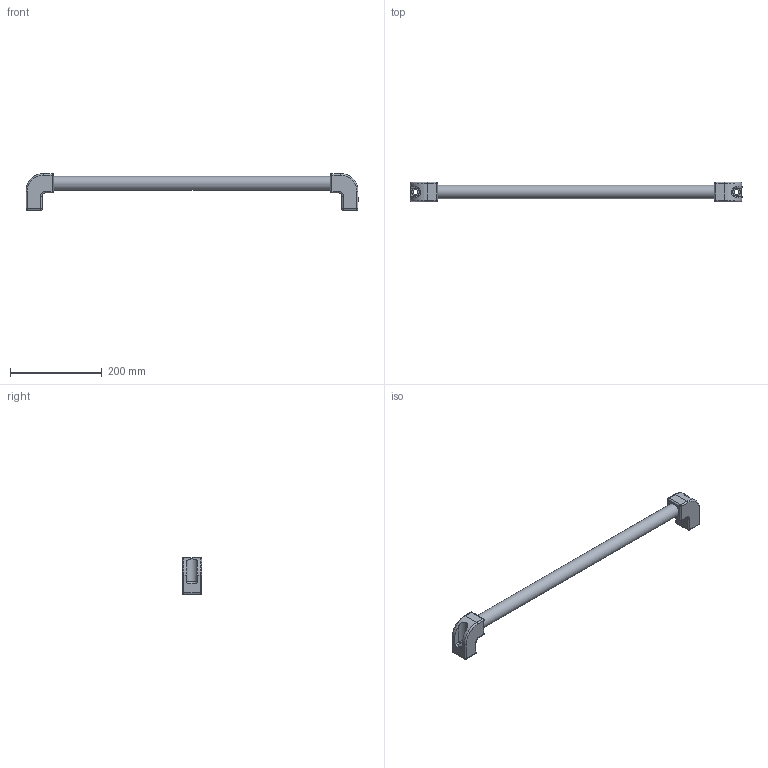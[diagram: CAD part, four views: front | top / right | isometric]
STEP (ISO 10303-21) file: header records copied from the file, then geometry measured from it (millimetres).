
FILE_DESCRIPTION( ('This file contains a STEP AP42 implementation' ,'as created by ZW3D STEP Interface translator.') ,'2;1' );
FILE_NAME( 'R30-700.stp' ,'26 817.123340', (''), ('ZWCAD Software Co.'), 'Version 1.0', 'ZW3D to STEP translator', '' );
FILE_SCHEMA(('AP242_MANAGED_MODEL_BASED_3D_ENGINEERING_MIM_LF { 1 0 10303 442 1 1 4 }'));
Length unit declared in the file: millimetre
Products named in the file (1): 0
Bounding box: 724 x 42 x 80 mm (x, y, z)
Volume: 330209.1 mm3; surface area: 157505.5 mm2
Topology: 3 solids, 3 shells, 104 faces, 216 edges, 122 vertices
Faces by surface type: cylinder 50, plane 28, sphere 16, torus 10
Full cylindrical faces by diameter (mm): 10.5 x2, 17 x2, 26 x1, 30 x3
Entity records: 2885 total; most frequent: DIRECTION 538, CARTESIAN_POINT 467, ORIENTED_EDGE 428, AXIS2_PLACEMENT_3D 219, EDGE_CURVE 214, VERTEX_POINT 120, CIRCLE 114, EDGE_LOOP 114
